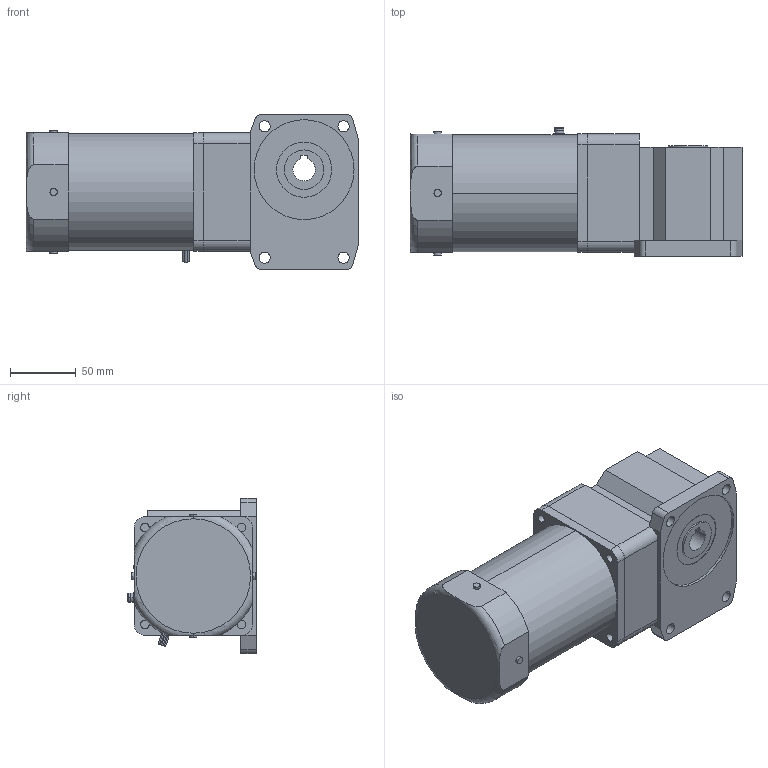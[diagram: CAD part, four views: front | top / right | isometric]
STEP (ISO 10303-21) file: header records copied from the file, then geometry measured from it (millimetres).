
FILE_DESCRIPTION(('starvars output'),'2;1');
FILE_NAME('5RK90GE-CW3E _ 5GE15RH.stp','13:56:13 2015/05/11',( 'Thomas Industrial Network Germany GmbH'),( 'Thomas Industrial Network Germany GmbH'),'unknown preprocess','ACIS' ,'unknown authorization');
FILE_SCHEMA(('AUTOMOTIVE_DESIGN_CC2 {UNKNOWN IMPLEMENTATION LEVEL}'));
Length unit declared in the file: millimetre
Products named in the file (1): PRODUCT_ID_780
Bounding box: 252.5 x 98 x 118 mm (x, y, z)
Volume: 1744334.9 mm3; surface area: 110016.9 mm2
Topology: 1 solids, 1 shells, 170 faces, 413 edges, 271 vertices
Faces by surface type: cylinder 82, plane 80, torus 8
Entity records: 6159 total; most frequent: CARTESIAN_POINT 1015, ORIENTED_EDGE 826, DIRECTION 688, EDGE_CURVE 413, VERTEX_POINT 271, AXIS2_PLACEMENT_3D 236, VECTOR 216, LINE 216
